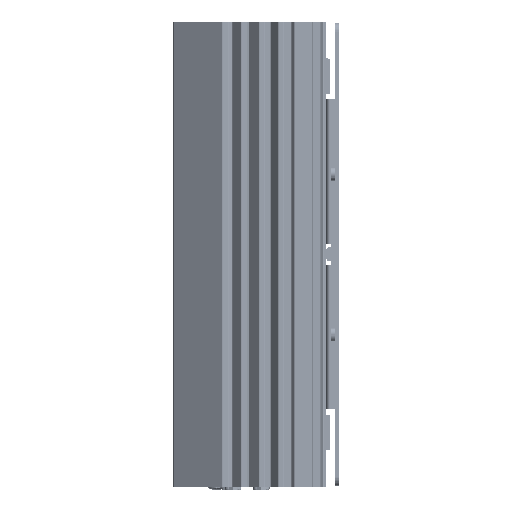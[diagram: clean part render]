
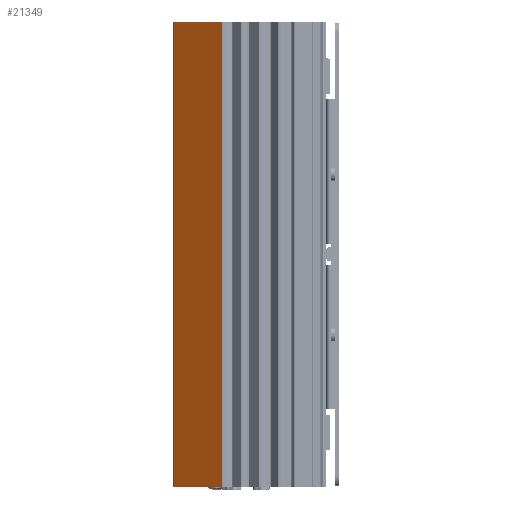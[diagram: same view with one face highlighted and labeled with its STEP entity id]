
A CAD part, left-side view. The second image highlights one B-rep face of the part: STEP entity #21349.
In plain terms, the highlighted planar face has unit normal (-0.819, 0.574, 0).
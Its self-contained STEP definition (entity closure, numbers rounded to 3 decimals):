
#21349 = ADVANCED_FACE ( 'NONE', ( #128194 ), #662164, .F. ) ;
#24150 = CARTESIAN_POINT ( 'NONE',  ( -94.26, 19.8, -130.5 ) ) ;
#29665 = EDGE_CURVE ( 'NONE', #627656, #774390, #401947, .T. ) ;
#91892 = DIRECTION ( 'NONE',  ( -0.574, -0.819, 0. ) ) ;
#95859 = CARTESIAN_POINT ( 'NONE',  ( -94.42, 19.571, 130.5 ) ) ;
#104161 = ORIENTED_EDGE ( 'NONE', *, *, #303580, .T. ) ;
#124436 = EDGE_CURVE ( 'NONE', #199538, #740733, #639307, .T. ) ;
#128194 = FACE_OUTER_BOUND ( 'NONE', #705983, .T. ) ;
#156081 = VECTOR ( 'NONE', #91892, 1000. ) ;
#199538 = VERTEX_POINT ( 'NONE', #645265 ) ;
#200084 = VECTOR ( 'NONE', #652579, 1000. ) ;
#267309 = CARTESIAN_POINT ( 'NONE',  ( -113.398, -7.532, 130.5 ) ) ;
#267607 = DIRECTION ( 'NONE',  ( 0.574, 0.819, 0. ) ) ;
#290571 = DIRECTION ( 'NONE',  ( 0., 0., -1. ) ) ;
#300509 = CARTESIAN_POINT ( 'NONE',  ( -113.398, -7.532, -130.5 ) ) ;
#303580 = EDGE_CURVE ( 'NONE', #740733, #627656, #468566, .T. ) ;
#307973 = ORIENTED_EDGE ( 'NONE', *, *, #546427, .F. ) ;
#320546 = ORIENTED_EDGE ( 'NONE', *, *, #124436, .T. ) ;
#339233 = AXIS2_PLACEMENT_3D ( 'NONE', #791852, #600046, #267607 ) ;
#342624 = LINE ( 'NONE', #702555, #816733 ) ;
#401947 = LINE ( 'NONE', #587688, #200084 ) ;
#446741 = ORIENTED_EDGE ( 'NONE', *, *, #29665, .T. ) ;
#467681 = VECTOR ( 'NONE', #290571, 1000. ) ;
#468566 = LINE ( 'NONE', #24150, #156081 ) ;
#546427 = EDGE_CURVE ( 'NONE', #199538, #774390, #342624, .T. ) ;
#581112 = DIRECTION ( 'NONE',  ( -0.574, -0.819, 0. ) ) ;
#587688 = CARTESIAN_POINT ( 'NONE',  ( -113.398, -7.532, 130.5 ) ) ;
#600046 = DIRECTION ( 'NONE',  ( 0.819, -0.574, 0. ) ) ;
#627656 = VERTEX_POINT ( 'NONE', #300509 ) ;
#639307 = LINE ( 'NONE', #95859, #467681 ) ;
#645265 = CARTESIAN_POINT ( 'NONE',  ( -94.42, 19.571, 130.5 ) ) ;
#652579 = DIRECTION ( 'NONE',  ( 0., 0., 1. ) ) ;
#662164 = PLANE ( 'NONE',  #339233 ) ;
#702555 = CARTESIAN_POINT ( 'NONE',  ( -94.26, 19.8, 130.5 ) ) ;
#703757 = CARTESIAN_POINT ( 'NONE',  ( -94.42, 19.571, -130.5 ) ) ;
#705983 = EDGE_LOOP ( 'NONE', ( #104161, #446741, #307973, #320546 ) ) ;
#740733 = VERTEX_POINT ( 'NONE', #703757 ) ;
#774390 = VERTEX_POINT ( 'NONE', #267309 ) ;
#791852 = CARTESIAN_POINT ( 'NONE',  ( -94.26, 19.8, 130.5 ) ) ;
#816733 = VECTOR ( 'NONE', #581112, 1000. ) ;
